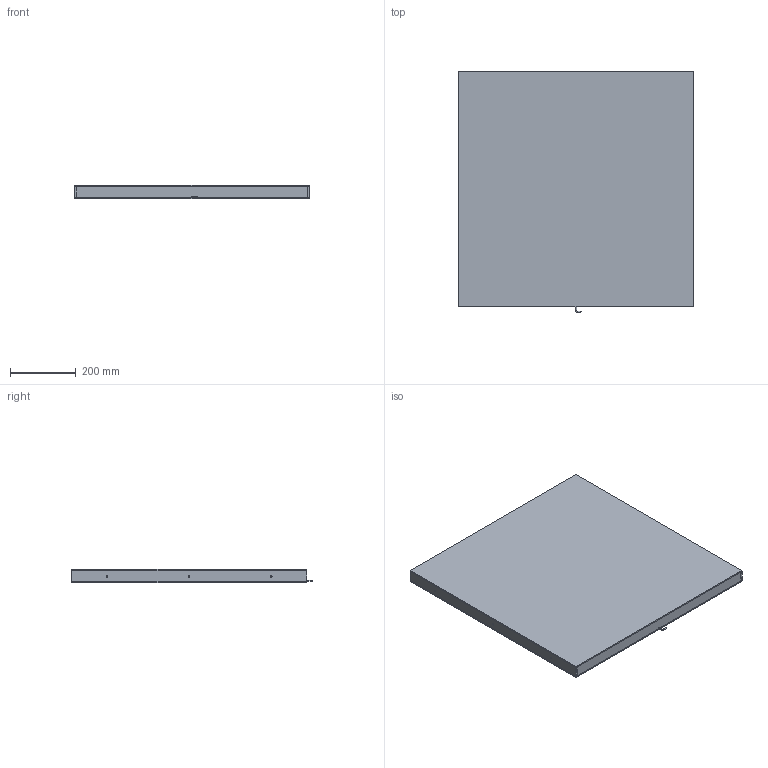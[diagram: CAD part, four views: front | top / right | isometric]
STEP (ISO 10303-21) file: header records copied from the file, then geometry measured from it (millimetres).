
FILE_DESCRIPTION (( 'STEP AP203' ), '1' );
FILE_NAME ('CRT-FLD700700-¼òÒ×3DÍ¼.STEP', '2021-11-23T07:56:05', ( 'Admin' ), ( '' ), 'SwSTEP 2.0', 'SolidWorks 2018', '' );
FILE_SCHEMA (( 'CONFIG_CONTROL_DESIGN' ));
Length unit declared in the file: millimetre
Products named in the file (1): CRT-FLD700700-潠眢3D芞
Bounding box: 714 x 731.75 x 41 mm (x, y, z)
Surface area: 2159912 mm2 (no closed solid volume)
Topology: 0 solids, 7 shells, 55 faces, 167 edges, 118 vertices
Faces by surface type: plane 36, cylinder 17, bspline 2
Entity records: 1976 total; most frequent: CARTESIAN_POINT 427, DIRECTION 306, ORIENTED_EDGE 257, EDGE_CURVE 167, LINE 128, VECTOR 128, VERTEX_POINT 118, AXIS2_PLACEMENT_3D 89
